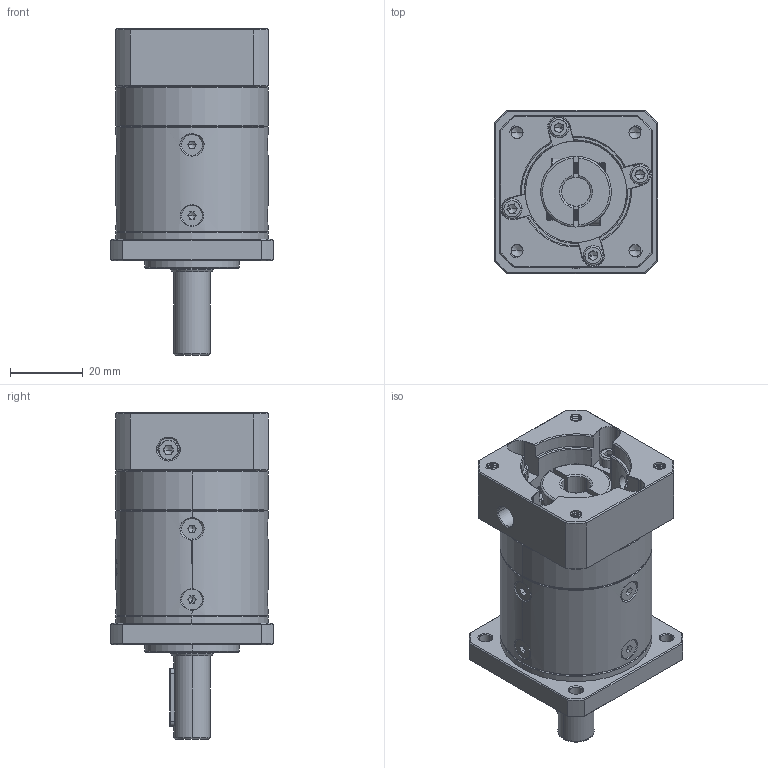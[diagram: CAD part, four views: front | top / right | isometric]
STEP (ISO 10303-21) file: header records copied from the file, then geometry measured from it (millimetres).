
FILE_DESCRIPTION (( 'STEP AP214' ), '1' );
FILE_NAME ('ZF40-L1-8-30-46-M4.step', '2023-03-15T09:46:24', ( '' ), ( '' ), 'SwSTEP 2.0', 'SolidWorks 2016', '' );
FILE_SCHEMA (( 'AUTOMOTIVE_DESIGN' ));
Length unit declared in the file: millimetre
Products named in the file (1): ZF40-L1-8-30-46-M4
Bounding box: 45 x 45 x 90 mm (x, y, z)
Volume: 84692 mm3; surface area: 26281.4 mm2
Topology: 14 solids, 14 shells, 2076 faces, 5425 edges, 3440 vertices
Faces by surface type: plane 943, cylinder 431, cone 344, bspline 332, torus 26
Entity records: 121528 total; most frequent: CARTESIAN_POINT 51383, ORIENTED_EDGE 10774, DIRECTION 8446, EDGE_CURVE 5387, VERTEX_POINT 3440, AXIS2_PLACEMENT_3D 2826, LINE 2794, VECTOR 2794
